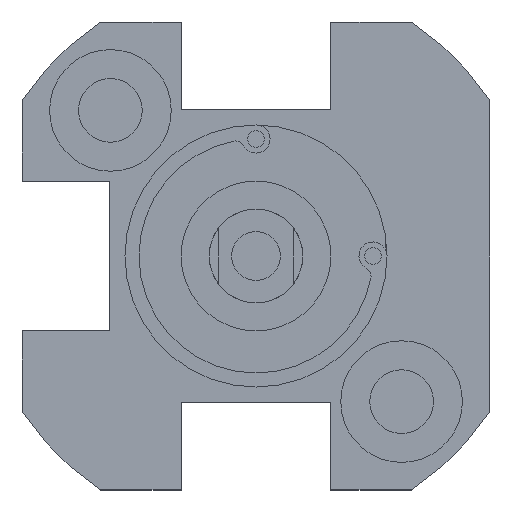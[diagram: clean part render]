
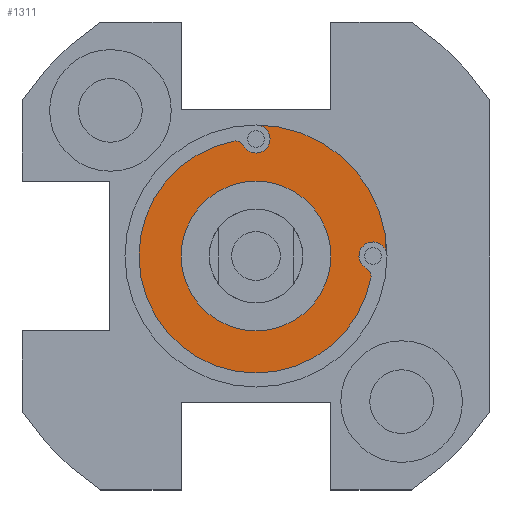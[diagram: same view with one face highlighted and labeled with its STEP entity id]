
A CAD part, front view. The second image highlights one B-rep face of the part: STEP entity #1311.
In plain terms, the highlighted planar face has unit normal (0, -1, 0) as drawn and (0, 1, 0) by its records, which use the part's own axes.
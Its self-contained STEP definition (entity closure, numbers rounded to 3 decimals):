
#19 = CIRCLE ( 'NONE', #121, 4. ) ;
#23 = DIRECTION ( 'NONE',  ( 0., 1., 0. ) ) ;
#73 = DIRECTION ( 'NONE',  ( 0., 1., 0. ) ) ;
#82 = FACE_BOUND ( 'NONE', #2004, .T. ) ;
#97 = VERTEX_POINT ( 'NONE', #2223 ) ;
#121 = AXIS2_PLACEMENT_3D ( 'NONE', #1742, #604, #393 ) ;
#143 = ORIENTED_EDGE ( 'NONE', *, *, #650, .F. ) ;
#153 = DIRECTION ( 'NONE',  ( 0., 1., 0. ) ) ;
#175 = CIRCLE ( 'NONE', #1247, 4. ) ;
#182 = EDGE_CURVE ( 'NONE', #253, #2054, #1733, .T. ) ;
#218 = AXIS2_PLACEMENT_3D ( 'NONE', #2465, #1877, #1863 ) ;
#253 = VERTEX_POINT ( 'NONE', #1737 ) ;
#291 = CARTESIAN_POINT ( 'NONE',  ( 0., -2., -6.25 ) ) ;
#311 = DIRECTION ( 'NONE',  ( 0., 0., 1. ) ) ;
#318 = CIRCLE ( 'NONE', #1860, 6.25 ) ;
#322 = VERTEX_POINT ( 'NONE', #1939 ) ;
#393 = DIRECTION ( 'NONE',  ( 0., 0., 1. ) ) ;
#454 = CARTESIAN_POINT ( 'NONE',  ( 0., -2., 4. ) ) ;
#495 = DIRECTION ( 'NONE',  ( 0., 1., 0. ) ) ;
#522 = DIRECTION ( 'NONE',  ( 0., 1., 0. ) ) ;
#571 = CIRCLE ( 'NONE', #992, 0.5 ) ;
#596 = CARTESIAN_POINT ( 'NONE',  ( 0., -2., -6.25 ) ) ;
#604 = DIRECTION ( 'NONE',  ( 0., 1., 0. ) ) ;
#650 = EDGE_CURVE ( 'NONE', #97, #1503, #771, .T. ) ;
#667 = EDGE_CURVE ( 'NONE', #97, #322, #571, .T. ) ;
#729 = ORIENTED_EDGE ( 'NONE', *, *, #2344, .F. ) ;
#747 = ORIENTED_EDGE ( 'NONE', *, *, #2159, .F. ) ;
#771 = CIRCLE ( 'NONE', #1516, 0.75 ) ;
#793 = DIRECTION ( 'NONE',  ( 0., 0., 1. ) ) ;
#857 = CARTESIAN_POINT ( 'NONE',  ( -1.094, -2., -5.645 ) ) ;
#927 = PLANE ( 'NONE',  #1533 ) ;
#990 = CARTESIAN_POINT ( 'NONE',  ( 5.887, -2., 0.656 ) ) ;
#992 = AXIS2_PLACEMENT_3D ( 'NONE', #857, #495, #2021 ) ;
#1030 = CIRCLE ( 'NONE', #218, 6.25 ) ;
#1056 = AXIS2_PLACEMENT_3D ( 'NONE', #1261, #522, #2031 ) ;
#1068 = DIRECTION ( 'NONE',  ( 0., 1., 0. ) ) ;
#1131 = CIRCLE ( 'NONE', #1489, 0.5 ) ;
#1177 = ORIENTED_EDGE ( 'NONE', *, *, #667, .T. ) ;
#1185 = ORIENTED_EDGE ( 'NONE', *, *, #1743, .F. ) ;
#1247 = AXIS2_PLACEMENT_3D ( 'NONE', #2214, #1068, #311 ) ;
#1250 = DIRECTION ( 'NONE',  ( 0., 0., 1. ) ) ;
#1261 = CARTESIAN_POINT ( 'NONE',  ( 6.25, -2., 0. ) ) ;
#1268 = ORIENTED_EDGE ( 'NONE', *, *, #1603, .F. ) ;
#1311 = ADVANCED_FACE ( 'NONE', ( #2484, #82 ), #927, .T. ) ;
#1324 = EDGE_CURVE ( 'NONE', #322, #1494, #1030, .T. ) ;
#1347 = CARTESIAN_POINT ( 'NONE',  ( 0., -2., -4. ) ) ;
#1486 = CARTESIAN_POINT ( 'NONE',  ( 0., -2., 6.25 ) ) ;
#1489 = AXIS2_PLACEMENT_3D ( 'NONE', #1979, #73, #1594 ) ;
#1494 = VERTEX_POINT ( 'NONE', #1486 ) ;
#1503 = VERTEX_POINT ( 'NONE', #2262 ) ;
#1516 = AXIS2_PLACEMENT_3D ( 'NONE', #291, #1617, #1250 ) ;
#1531 = EDGE_LOOP ( 'NONE', ( #2405, #2268, #1682, #747, #2064, #1185, #143, #1177 ) ) ;
#1533 = AXIS2_PLACEMENT_3D ( 'NONE', #2056, #153, #1693 ) ;
#1591 = AXIS2_PLACEMENT_3D ( 'NONE', #2460, #2481, #2093 ) ;
#1594 = DIRECTION ( 'NONE',  ( 0., 0., 1. ) ) ;
#1596 = AXIS2_PLACEMENT_3D ( 'NONE', #596, #23, #793 ) ;
#1603 = EDGE_CURVE ( 'NONE', #2261, #1867, #19, .T. ) ;
#1617 = DIRECTION ( 'NONE',  ( 0., 1., 0. ) ) ;
#1670 = VERTEX_POINT ( 'NONE', #990 ) ;
#1682 = ORIENTED_EDGE ( 'NONE', *, *, #1821, .T. ) ;
#1693 = DIRECTION ( 'NONE',  ( 0., 0., 1. ) ) ;
#1706 = VERTEX_POINT ( 'NONE', #2141 ) ;
#1713 = CIRCLE ( 'NONE', #1596, 0.75 ) ;
#1733 = CIRCLE ( 'NONE', #1591, 7. ) ;
#1737 = CARTESIAN_POINT ( 'NONE',  ( 7., -2., 0. ) ) ;
#1742 = CARTESIAN_POINT ( 'NONE',  ( 0., -2., 0. ) ) ;
#1743 = EDGE_CURVE ( 'NONE', #1503, #2054, #1713, .T. ) ;
#1821 = EDGE_CURVE ( 'NONE', #1706, #1670, #1131, .T. ) ;
#1829 = DIRECTION ( 'NONE',  ( 0., 1., 0. ) ) ;
#1860 = AXIS2_PLACEMENT_3D ( 'NONE', #1987, #1829, #2394 ) ;
#1863 = DIRECTION ( 'NONE',  ( 0., 0., 1. ) ) ;
#1867 = VERTEX_POINT ( 'NONE', #454 ) ;
#1877 = DIRECTION ( 'NONE',  ( 0., 1., 0. ) ) ;
#1924 = CIRCLE ( 'NONE', #1056, 0.75 ) ;
#1939 = CARTESIAN_POINT ( 'NONE',  ( -1.189, -2., -6.136 ) ) ;
#1979 = CARTESIAN_POINT ( 'NONE',  ( 5.645, -2., 1.094 ) ) ;
#1987 = CARTESIAN_POINT ( 'NONE',  ( 0., -2., 0. ) ) ;
#2004 = EDGE_LOOP ( 'NONE', ( #729, #1268 ) ) ;
#2021 = DIRECTION ( 'NONE',  ( 0., 0., 1. ) ) ;
#2031 = DIRECTION ( 'NONE',  ( 0., 0., 1. ) ) ;
#2054 = VERTEX_POINT ( 'NONE', #2217 ) ;
#2056 = CARTESIAN_POINT ( 'NONE',  ( 0., -2., 0. ) ) ;
#2064 = ORIENTED_EDGE ( 'NONE', *, *, #182, .T. ) ;
#2093 = DIRECTION ( 'NONE',  ( 0., 0., 1. ) ) ;
#2141 = CARTESIAN_POINT ( 'NONE',  ( 6.136, -2., 1.189 ) ) ;
#2159 = EDGE_CURVE ( 'NONE', #253, #1670, #1924, .T. ) ;
#2214 = CARTESIAN_POINT ( 'NONE',  ( 0., -2., 0. ) ) ;
#2217 = CARTESIAN_POINT ( 'NONE',  ( 0., -2., -7. ) ) ;
#2223 = CARTESIAN_POINT ( 'NONE',  ( -0.656, -2., -5.887 ) ) ;
#2261 = VERTEX_POINT ( 'NONE', #1347 ) ;
#2262 = CARTESIAN_POINT ( 'NONE',  ( 0., -2., -5.5 ) ) ;
#2268 = ORIENTED_EDGE ( 'NONE', *, *, #2298, .T. ) ;
#2298 = EDGE_CURVE ( 'NONE', #1494, #1706, #318, .T. ) ;
#2344 = EDGE_CURVE ( 'NONE', #1867, #2261, #175, .T. ) ;
#2394 = DIRECTION ( 'NONE',  ( 0., 0., 1. ) ) ;
#2405 = ORIENTED_EDGE ( 'NONE', *, *, #1324, .T. ) ;
#2460 = CARTESIAN_POINT ( 'NONE',  ( 0., -2., 0. ) ) ;
#2465 = CARTESIAN_POINT ( 'NONE',  ( 0., -2., 0. ) ) ;
#2481 = DIRECTION ( 'NONE',  ( 0., 1., 0. ) ) ;
#2484 = FACE_OUTER_BOUND ( 'NONE', #1531, .T. ) ;
